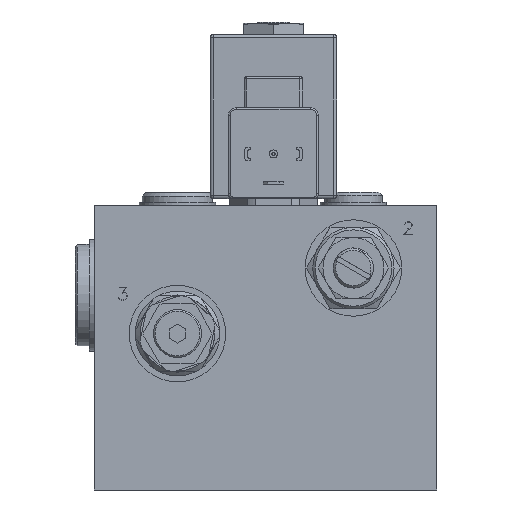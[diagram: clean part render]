
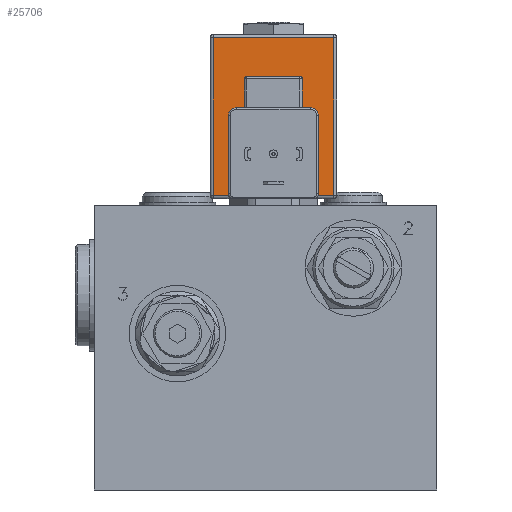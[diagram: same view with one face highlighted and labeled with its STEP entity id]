
A CAD part, front view. The second image highlights one B-rep face of the part: STEP entity #25706.
In plain terms, the highlighted planar face has unit normal (0, -1, 0).
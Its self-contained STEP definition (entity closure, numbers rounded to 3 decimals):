
#1502=LINE('',#43537,#2957);
#1503=LINE('',#43540,#2958);
#1504=LINE('',#43544,#2959);
#1505=LINE('',#43548,#2960);
#1506=LINE('',#43550,#2961);
#1507=LINE('',#43554,#2962);
#1508=LINE('',#43558,#2963);
#1509=LINE('',#43560,#2964);
#1510=LINE('',#43564,#2965);
#1511=LINE('',#43568,#2966);
#1512=LINE('',#43570,#2967);
#1513=LINE('',#43572,#2968);
#2957=VECTOR('',#33672,1000.);
#2958=VECTOR('',#33673,1000.);
#2959=VECTOR('',#33676,1000.);
#2960=VECTOR('',#33679,1000.);
#2961=VECTOR('',#33680,1000.);
#2962=VECTOR('',#33683,1000.);
#2963=VECTOR('',#33686,1000.);
#2964=VECTOR('',#33687,1000.);
#2965=VECTOR('',#33690,1000.);
#2966=VECTOR('',#33693,1000.);
#2967=VECTOR('',#33694,1000.);
#2968=VECTOR('',#33695,1000.);
#5760=PLANE('',#28909);
#11320=ORIENTED_EDGE('',*,*,#16051,.T.);
#11321=ORIENTED_EDGE('',*,*,#16052,.T.);
#11322=ORIENTED_EDGE('',*,*,#16053,.T.);
#11323=ORIENTED_EDGE('',*,*,#16054,.F.);
#11324=ORIENTED_EDGE('',*,*,#16055,.T.);
#11325=ORIENTED_EDGE('',*,*,#16056,.F.);
#11326=ORIENTED_EDGE('',*,*,#16057,.F.);
#11327=ORIENTED_EDGE('',*,*,#16058,.T.);
#11328=ORIENTED_EDGE('',*,*,#16059,.F.);
#11329=ORIENTED_EDGE('',*,*,#16060,.T.);
#11330=ORIENTED_EDGE('',*,*,#16061,.T.);
#11331=ORIENTED_EDGE('',*,*,#16062,.F.);
#11332=ORIENTED_EDGE('',*,*,#16063,.T.);
#11333=ORIENTED_EDGE('',*,*,#16064,.T.);
#11334=ORIENTED_EDGE('',*,*,#16065,.T.);
#11335=ORIENTED_EDGE('',*,*,#16066,.T.);
#11336=ORIENTED_EDGE('',*,*,#16067,.T.);
#11337=ORIENTED_EDGE('',*,*,#16068,.T.);
#16051=EDGE_CURVE('',#18944,#18945,#1502,.T.);
#16052=EDGE_CURVE('',#18945,#18946,#1503,.T.);
#16053=EDGE_CURVE('',#18946,#18947,#19990,.T.);
#16054=EDGE_CURVE('',#18948,#18947,#1504,.T.);
#16055=EDGE_CURVE('',#18948,#18949,#19991,.T.);
#16056=EDGE_CURVE('',#18950,#18949,#1505,.T.);
#16057=EDGE_CURVE('',#18951,#18950,#1506,.T.);
#16058=EDGE_CURVE('',#18951,#18952,#19992,.T.);
#16059=EDGE_CURVE('',#18953,#18952,#1507,.T.);
#16060=EDGE_CURVE('',#18953,#18954,#19993,.T.);
#16061=EDGE_CURVE('',#18954,#18955,#1508,.T.);
#16062=EDGE_CURVE('',#18956,#18955,#1509,.T.);
#16063=EDGE_CURVE('',#18956,#18957,#19994,.T.);
#16064=EDGE_CURVE('',#18957,#18958,#1510,.T.);
#16065=EDGE_CURVE('',#18958,#18959,#19995,.T.);
#16066=EDGE_CURVE('',#18959,#18960,#1511,.T.);
#16067=EDGE_CURVE('',#18960,#18961,#1512,.F.);
#16068=EDGE_CURVE('',#18961,#18944,#1513,.F.);
#18944=VERTEX_POINT('',#43538);
#18945=VERTEX_POINT('',#43539);
#18946=VERTEX_POINT('',#43541);
#18947=VERTEX_POINT('',#43543);
#18948=VERTEX_POINT('',#43545);
#18949=VERTEX_POINT('',#43547);
#18950=VERTEX_POINT('',#43549);
#18951=VERTEX_POINT('',#43551);
#18952=VERTEX_POINT('',#43553);
#18953=VERTEX_POINT('',#43555);
#18954=VERTEX_POINT('',#43557);
#18955=VERTEX_POINT('',#43559);
#18956=VERTEX_POINT('',#43561);
#18957=VERTEX_POINT('',#43563);
#18958=VERTEX_POINT('',#43565);
#18959=VERTEX_POINT('',#43567);
#18960=VERTEX_POINT('',#43569);
#18961=VERTEX_POINT('',#43571);
#19990=CIRCLE('',#28910,1.5);
#19991=CIRCLE('',#28911,2.5);
#19992=CIRCLE('',#28912,0.75);
#19993=CIRCLE('',#28913,0.75);
#19994=CIRCLE('',#28914,2.5);
#19995=CIRCLE('',#28915,1.5);
#21725=EDGE_LOOP('',(#11320,#11321,#11322,#11323,#11324,#11325,#11326,#11327,
#11328,#11329,#11330,#11331,#11332,#11333,#11334,#11335,#11336,#11337));
#23833=FACE_BOUND('',#21725,.T.);
#25706=ADVANCED_FACE('',(#23833),#5760,.F.);
#28909=AXIS2_PLACEMENT_3D('',#43536,#33670,#33671);
#28910=AXIS2_PLACEMENT_3D('',#43542,#33674,#33675);
#28911=AXIS2_PLACEMENT_3D('',#43546,#33677,#33678);
#28912=AXIS2_PLACEMENT_3D('',#43552,#33681,#33682);
#28913=AXIS2_PLACEMENT_3D('',#43556,#33684,#33685);
#28914=AXIS2_PLACEMENT_3D('',#43562,#33688,#33689);
#28915=AXIS2_PLACEMENT_3D('',#43566,#33691,#33692);
#33670=DIRECTION('',(0.,1.,0.));
#33671=DIRECTION('',(0.,0.,1.));
#33672=DIRECTION('',(0.,0.,-1.));
#33673=DIRECTION('',(1.,0.,0.));
#33674=DIRECTION('',(0.,1.,0.));
#33675=DIRECTION('',(0.,0.,1.));
#33676=DIRECTION('',(0.,0.,-1.));
#33677=DIRECTION('',(0.,1.,0.));
#33678=DIRECTION('',(0.,0.,1.));
#33679=DIRECTION('',(-1.,0.,0.));
#33680=DIRECTION('',(0.,0.,-1.));
#33681=DIRECTION('',(0.,1.,0.));
#33682=DIRECTION('',(0.,0.,1.));
#33683=DIRECTION('',(-1.,0.,0.));
#33684=DIRECTION('',(0.,1.,0.));
#33685=DIRECTION('',(0.,0.,1.));
#33686=DIRECTION('',(0.,0.,-1.));
#33687=DIRECTION('',(-1.,0.,0.));
#33688=DIRECTION('',(0.,1.,0.));
#33689=DIRECTION('',(0.,0.,1.));
#33690=DIRECTION('',(0.,0.,-1.));
#33691=DIRECTION('',(0.,1.,0.));
#33692=DIRECTION('',(0.,0.,1.));
#33693=DIRECTION('',(1.,0.,0.));
#33694=DIRECTION('',(0.,0.,-1.));
#33695=DIRECTION('',(1.,0.,0.));
#43536=CARTESIAN_POINT('',(-19.8,-27.,8.15));
#43537=CARTESIAN_POINT('',(-18.8,-27.,8.15));
#43538=CARTESIAN_POINT('',(-18.8,-27.,50.35));
#43539=CARTESIAN_POINT('',(-18.8,-27.,1.));
#43540=CARTESIAN_POINT('',(-19.8,-27.,1.));
#43541=CARTESIAN_POINT('',(-13.964,-27.,1.));
#43542=CARTESIAN_POINT('',(-12.55,-27.,1.5));
#43543=CARTESIAN_POINT('',(-14.05,-27.,1.5));
#43544=CARTESIAN_POINT('',(-14.05,-27.,28.5));
#43545=CARTESIAN_POINT('',(-14.05,-27.,26.));
#43546=CARTESIAN_POINT('',(-11.55,-27.,26.));
#43547=CARTESIAN_POINT('',(-11.55,-27.,28.5));
#43548=CARTESIAN_POINT('',(-14.05,-27.,28.5));
#43549=CARTESIAN_POINT('',(-9.05,-27.,28.5));
#43550=CARTESIAN_POINT('',(-9.05,-27.,38.3));
#43551=CARTESIAN_POINT('',(-9.05,-27.,37.55));
#43552=CARTESIAN_POINT('',(-8.3,-27.,37.55));
#43553=CARTESIAN_POINT('',(-8.3,-27.,38.3));
#43554=CARTESIAN_POINT('',(9.05,-27.,38.3));
#43555=CARTESIAN_POINT('',(8.3,-27.,38.3));
#43556=CARTESIAN_POINT('',(8.3,-27.,37.55));
#43557=CARTESIAN_POINT('',(9.05,-27.,37.55));
#43558=CARTESIAN_POINT('',(9.05,-27.,38.3));
#43559=CARTESIAN_POINT('',(9.05,-27.,28.5));
#43560=CARTESIAN_POINT('',(-14.05,-27.,28.5));
#43561=CARTESIAN_POINT('',(11.55,-27.,28.5));
#43562=CARTESIAN_POINT('',(11.55,-27.,26.));
#43563=CARTESIAN_POINT('',(14.05,-27.,26.));
#43564=CARTESIAN_POINT('',(14.05,-27.,28.5));
#43565=CARTESIAN_POINT('',(14.05,-27.,1.5));
#43566=CARTESIAN_POINT('',(12.55,-27.,1.5));
#43567=CARTESIAN_POINT('',(13.964,-27.,1.));
#43568=CARTESIAN_POINT('',(-19.8,-27.,1.));
#43569=CARTESIAN_POINT('',(18.8,-27.,1.));
#43570=CARTESIAN_POINT('',(18.8,-27.,8.15));
#43571=CARTESIAN_POINT('',(18.8,-27.,50.35));
#43572=CARTESIAN_POINT('',(-19.8,-27.,50.35));
